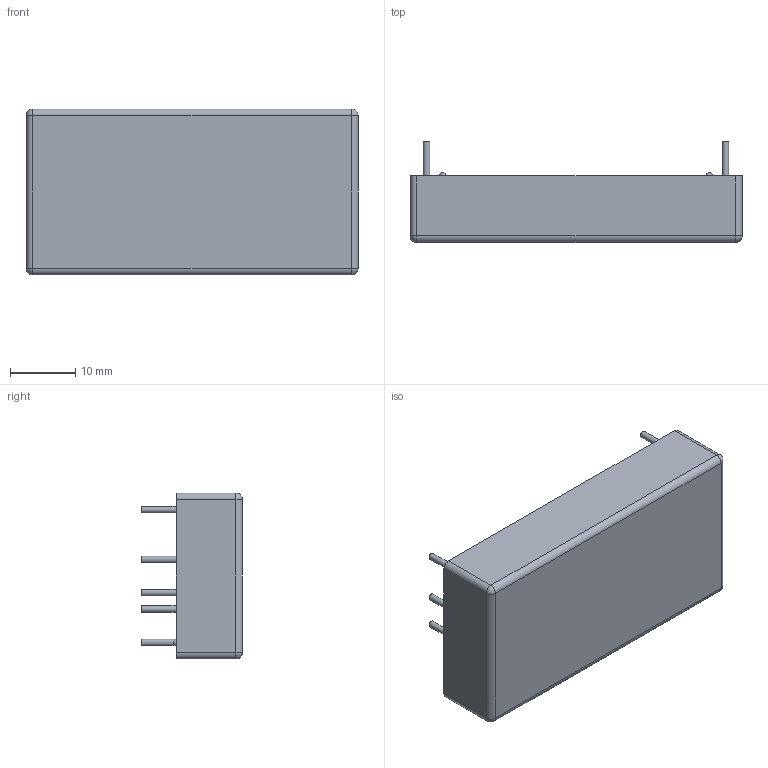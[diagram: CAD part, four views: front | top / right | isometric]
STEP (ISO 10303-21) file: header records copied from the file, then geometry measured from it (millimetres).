
FILE_DESCRIPTION(/* description */ ('Unknown'),/* implementation_level */ '2;1');
FILE_NAME(/* name */ 'JTL30(T)',/* time_stamp */ '2017-11-29T16:23:57+08:00',/* author */ ('Unknown'),/* organization */ ('Unknown'),/* preprocessor_version */ 'ST-DEVELOPER v16.7',/* originating_system */ 'DEX',/* authorisation */ $);
FILE_SCHEMA (('AUTOMOTIVE_DESIGN {1 0 10303 214 3 1 1}'));
Length unit declared in the file: millimetre
Products named in the file (1): JTL30(T)
Bounding box: 50.8 x 15.44 x 25.4 mm (x, y, z)
Volume: 13099 mm3; surface area: 4164 mm2
Topology: 1 solids, 1 shells, 36 faces, 77 edges, 42 vertices
Faces by surface type: cylinder 15, plane 13, sphere 8
Full cylindrical faces by diameter (mm): 1 x7
Entity records: 850 total; most frequent: DIRECTION 162, CARTESIAN_POINT 129, ORIENTED_EDGE 108, AXIS2_PLACEMENT_3D 71, EDGE_CURVE 54, EDGE_LOOP 54, FACE_BOUND 54, VERTEX_POINT 38
